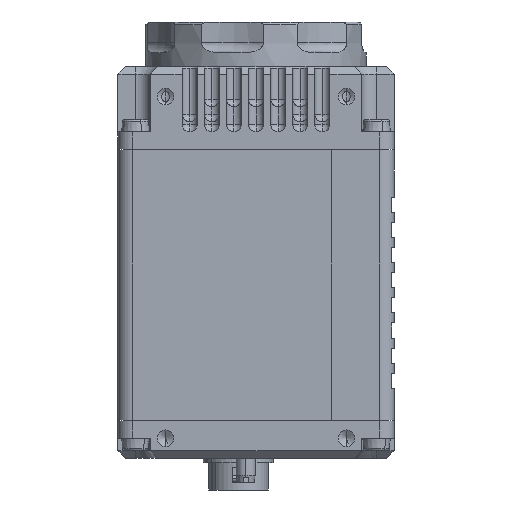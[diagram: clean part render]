
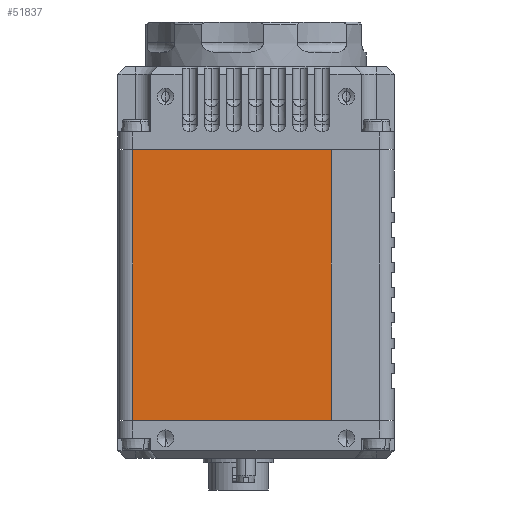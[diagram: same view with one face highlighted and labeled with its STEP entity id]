
A CAD part, left-side view. The second image highlights one B-rep face of the part: STEP entity #51837.
In plain terms, the highlighted planar face has unit normal (-1, 0, 0).
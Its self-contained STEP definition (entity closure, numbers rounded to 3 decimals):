
#2300 = LINE ( 'NONE', #27722, #97849 ) ;
#6921 = ORIENTED_EDGE ( 'NONE', *, *, #75213, .F. ) ;
#7496 = ORIENTED_EDGE ( 'NONE', *, *, #67258, .T. ) ;
#7723 = CARTESIAN_POINT ( 'NONE',  ( -27.5, 27.5, -53.95 ) ) ;
#8437 = DIRECTION ( 'NONE',  ( 0., 1., 0. ) ) ;
#12063 = VECTOR ( 'NONE', #87452, 1000. ) ;
#12246 = LINE ( 'NONE', #69100, #12063 ) ;
#18238 = VECTOR ( 'NONE', #56596, 1000. ) ;
#27722 = CARTESIAN_POINT ( 'NONE',  ( -27.5, -15., -0.05 ) ) ;
#28447 = CARTESIAN_POINT ( 'NONE',  ( -27.5, 24.5, -0.05 ) ) ;
#34434 = EDGE_CURVE ( 'NONE', #143023, #37002, #2300, .T. ) ;
#34637 = PLANE ( 'NONE',  #82151 ) ;
#37002 = VERTEX_POINT ( 'NONE', #46764 ) ;
#45824 = ORIENTED_EDGE ( 'NONE', *, *, #89908, .T. ) ;
#46764 = CARTESIAN_POINT ( 'NONE',  ( -27.5, -15., -53.95 ) ) ;
#46911 = LINE ( 'NONE', #69275, #18238 ) ;
#51837 = ADVANCED_FACE ( 'NONE', ( #99923 ), #34637, .F. ) ;
#56596 = DIRECTION ( 'NONE',  ( 0., -1., 0. ) ) ;
#57951 = VERTEX_POINT ( 'NONE', #28447 ) ;
#65362 = CARTESIAN_POINT ( 'NONE',  ( -27.5, 27.5, -0.05 ) ) ;
#67258 = EDGE_CURVE ( 'NONE', #118426, #37002, #99208, .T. ) ;
#69100 = CARTESIAN_POINT ( 'NONE',  ( -27.5, 24.5, -0.05 ) ) ;
#69275 = CARTESIAN_POINT ( 'NONE',  ( -27.5, 27.5, -0.05 ) ) ;
#73293 = CARTESIAN_POINT ( 'NONE',  ( -27.5, 24.5, -53.95 ) ) ;
#75213 = EDGE_CURVE ( 'NONE', #57951, #143023, #46911, .T. ) ;
#78080 = CARTESIAN_POINT ( 'NONE',  ( -27.5, -15., -0.05 ) ) ;
#78439 = EDGE_LOOP ( 'NONE', ( #6921, #45824, #7496, #127443 ) ) ;
#82151 = AXIS2_PLACEMENT_3D ( 'NONE', #65362, #111166, #8437 ) ;
#87452 = DIRECTION ( 'NONE',  ( 0., 0., -1. ) ) ;
#89908 = EDGE_CURVE ( 'NONE', #57951, #118426, #12246, .T. ) ;
#96679 = DIRECTION ( 'NONE',  ( 0., 0., -1. ) ) ;
#97849 = VECTOR ( 'NONE', #96679, 1000. ) ;
#99208 = LINE ( 'NONE', #7723, #122412 ) ;
#99923 = FACE_OUTER_BOUND ( 'NONE', #78439, .T. ) ;
#111166 = DIRECTION ( 'NONE',  ( 1., 0., 0. ) ) ;
#118426 = VERTEX_POINT ( 'NONE', #73293 ) ;
#122412 = VECTOR ( 'NONE', #144923, 1000. ) ;
#127443 = ORIENTED_EDGE ( 'NONE', *, *, #34434, .F. ) ;
#143023 = VERTEX_POINT ( 'NONE', #78080 ) ;
#144923 = DIRECTION ( 'NONE',  ( 0., -1., 0. ) ) ;
